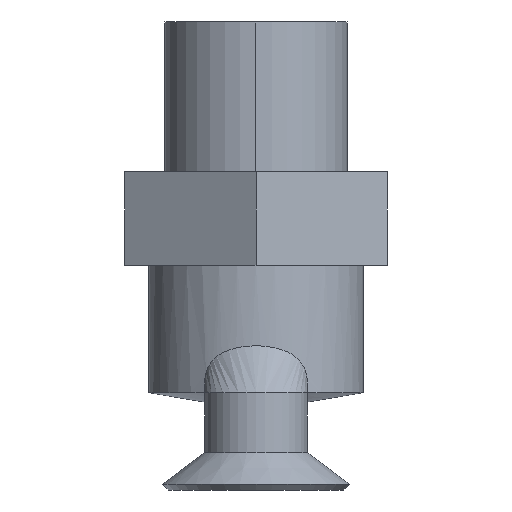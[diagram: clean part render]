
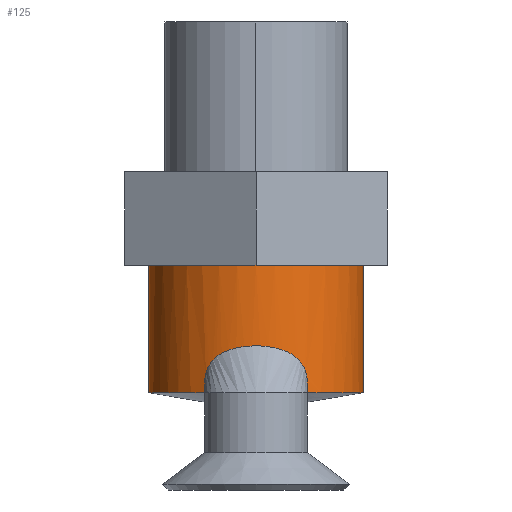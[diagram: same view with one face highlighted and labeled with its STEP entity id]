
A CAD part, left-side view. The second image highlights one B-rep face of the part: STEP entity #125.
In plain terms, the highlighted cylindrical face has radius 5.75 mm (diameter 11.5 mm), a partial arc.
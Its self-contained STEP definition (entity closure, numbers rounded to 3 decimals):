
#125=ADVANCED_FACE('NONE',(#267),#268,.T.);
#267=FACE_OUTER_BOUND('',#454,.T.);
#268=CYLINDRICAL_SURFACE('',#455,5.75);
#454=EDGE_LOOP('',(#742,#743,#744,#745,#746,#747,#748,#749));
#455=AXIS2_PLACEMENT_3D('',#750,#751,#752);
#742=ORIENTED_EDGE('',*,*,#1031,.F.);
#743=ORIENTED_EDGE('',*,*,#1032,.T.);
#744=ORIENTED_EDGE('',*,*,#1033,.T.);
#745=ORIENTED_EDGE('',*,*,#962,.F.);
#746=ORIENTED_EDGE('',*,*,#1003,.T.);
#747=ORIENTED_EDGE('',*,*,#957,.F.);
#748=ORIENTED_EDGE('',*,*,#1028,.T.);
#749=ORIENTED_EDGE('',*,*,#1034,.F.);
#750=CARTESIAN_POINT('',(0.0,0.0,-17.0));
#751=DIRECTION('',(0.0,0.0,-1.0));
#752=DIRECTION('',(0.0,1.0,0.0));
#957=EDGE_CURVE('NONE',#1131,#1133,#1134,.T.);
#962=EDGE_CURVE('NONE',#1139,#1099,#1141,.T.);
#1003=EDGE_CURVE('NONE',#1139,#1133,#1202,.T.);
#1028=EDGE_CURVE('NONE',#1131,#1229,#1231,.T.);
#1031=EDGE_CURVE('NONE',#1234,#1144,#1235,.T.);
#1032=EDGE_CURVE('NONE',#1234,#1236,#1237,.T.);
#1033=EDGE_CURVE('NONE',#1236,#1099,#1238,.T.);
#1034=EDGE_CURVE('NONE',#1144,#1229,#1239,.T.);
#1099=VERTEX_POINT('NONE',#1330);
#1131=VERTEX_POINT('NONE',#1403);
#1133=VERTEX_POINT('NONE',#1406);
#1134=B_SPLINE_CURVE_WITH_KNOTS('',3,(#1407,#1408,#1409,#1410,#1411,#1412,#1413,#1414,#1415,#1416,#1417,#1418,#1419,#1420,#1421,#1422,#1423,#1424,#1425,#1426,#1427,#1428,#1429,#1430,#1431,#1432,#1433,#1434,#1435,#1436),.UNSPECIFIED.,.F.,.F.,(4,2,2,2,2,2,2,2,2,2,2,2,2,2,4),(0.0,0.,0.001,0.001,0.002,0.002,0.003,0.003,0.004,0.005,0.006,0.006,0.007,0.007,0.008),.UNSPECIFIED.);
#1139=VERTEX_POINT('NONE',#1442);
#1141=CIRCLE('',#1451,5.75);
#1144=VERTEX_POINT('NONE',#1454);
#1202=LINE('',#1538,#1539);
#1229=VERTEX_POINT('NONE',#1578);
#1231=LINE('',#1585,#1586);
#1234=VERTEX_POINT('NONE',#1589);
#1235=LINE('',#1590,#1591);
#1236=VERTEX_POINT('NONE',#1592);
#1237=CIRCLE('',#1593,5.75);
#1238=LINE('',#1594,#1595);
#1239=CIRCLE('',#1596,5.75);
#1330=CARTESIAN_POINT('',(0.0,5.75,-11.8));
#1403=CARTESIAN_POINT('',(-5.05,-2.75,-11.35));
#1406=CARTESIAN_POINT('',(-5.05,2.75,-11.35));
#1407=CARTESIAN_POINT('',(-5.05,-2.75,-11.35));
#1408=CARTESIAN_POINT('',(-5.05,-2.75,-11.183));
#1409=CARTESIAN_POINT('',(-5.058,-2.735,-11.019));
#1410=CARTESIAN_POINT('',(-5.094,-2.667,-10.699));
#1411=CARTESIAN_POINT('',(-5.123,-2.612,-10.542));
#1412=CARTESIAN_POINT('',(-5.197,-2.462,-10.257));
#1413=CARTESIAN_POINT('',(-5.242,-2.365,-10.126));
#1414=CARTESIAN_POINT('',(-5.338,-2.142,-9.902));
#1415=CARTESIAN_POINT('',(-5.388,-2.014,-9.806));
#1416=CARTESIAN_POINT('',(-5.482,-1.741,-9.645));
#1417=CARTESIAN_POINT('',(-5.526,-1.596,-9.58));
#1418=CARTESIAN_POINT('',(-5.605,-1.294,-9.472));
#1419=CARTESIAN_POINT('',(-5.639,-1.136,-9.429));
#1420=CARTESIAN_POINT('',(-5.694,-0.818,-9.363));
#1421=CARTESIAN_POINT('',(-5.715,-0.657,-9.339));
#1422=CARTESIAN_POINT('',(-5.743,-0.332,-9.308));
#1423=CARTESIAN_POINT('',(-5.75,-0.165,-9.3));
#1424=CARTESIAN_POINT('',(-5.75,0.33,-9.3));
#1425=CARTESIAN_POINT('',(-5.722,0.656,-9.329));
#1426=CARTESIAN_POINT('',(-5.612,1.295,-9.462));
#1427=CARTESIAN_POINT('',(-5.53,1.602,-9.563));
#1428=CARTESIAN_POINT('',(-5.388,2.014,-9.806));
#1429=CARTESIAN_POINT('',(-5.338,2.14,-9.9));
#1430=CARTESIAN_POINT('',(-5.243,2.364,-10.125));
#1431=CARTESIAN_POINT('',(-5.197,2.461,-10.255));
#1432=CARTESIAN_POINT('',(-5.124,2.61,-10.538));
#1433=CARTESIAN_POINT('',(-5.095,2.666,-10.695));
#1434=CARTESIAN_POINT('',(-5.058,2.735,-11.016));
#1435=CARTESIAN_POINT('',(-5.05,2.75,-11.183));
#1436=CARTESIAN_POINT('',(-5.05,2.75,-11.35));
#1442=CARTESIAN_POINT('',(-5.05,2.75,-11.8));
#1451=AXIS2_PLACEMENT_3D('',#1743,#1744,#1745);
#1454=CARTESIAN_POINT('',(0.,-5.75,-11.8));
#1538=CARTESIAN_POINT('',(-5.05,2.75,-17.0));
#1539=VECTOR('',#1792,1000.0);
#1578=CARTESIAN_POINT('',(-5.05,-2.75,-11.8));
#1585=CARTESIAN_POINT('',(-5.05,-2.75,-17.0));
#1586=VECTOR('',#1814,1000.0);
#1589=CARTESIAN_POINT('',(0.,-5.75,-5.0));
#1590=CARTESIAN_POINT('',(0.,-5.75,-17.0));
#1591=VECTOR('',#1815,1000.0);
#1592=CARTESIAN_POINT('',(0.0,5.75,-5.0));
#1593=AXIS2_PLACEMENT_3D('',#1816,#1817,#1818);
#1594=CARTESIAN_POINT('',(0.0,5.75,-17.0));
#1595=VECTOR('',#1819,1000.0);
#1596=AXIS2_PLACEMENT_3D('',#1820,#1821,#1822);
#1743=CARTESIAN_POINT('',(0.0,0.0,-11.8));
#1744=DIRECTION('',(0.0,0.0,-1.0));
#1745=DIRECTION('',(0.0,1.0,0.0));
#1792=DIRECTION('',(-0.0,-0.0,1.0));
#1814=DIRECTION('',(0.0,0.0,-1.0));
#1815=DIRECTION('',(0.0,0.0,-1.0));
#1816=CARTESIAN_POINT('',(0.0,0.0,-5.0));
#1817=DIRECTION('',(0.0,0.0,-1.0));
#1818=DIRECTION('',(0.0,1.0,0.0));
#1819=DIRECTION('',(0.0,0.0,-1.0));
#1820=CARTESIAN_POINT('',(0.0,0.0,-11.8));
#1821=DIRECTION('',(0.0,0.0,-1.0));
#1822=DIRECTION('',(0.0,1.0,0.0));
